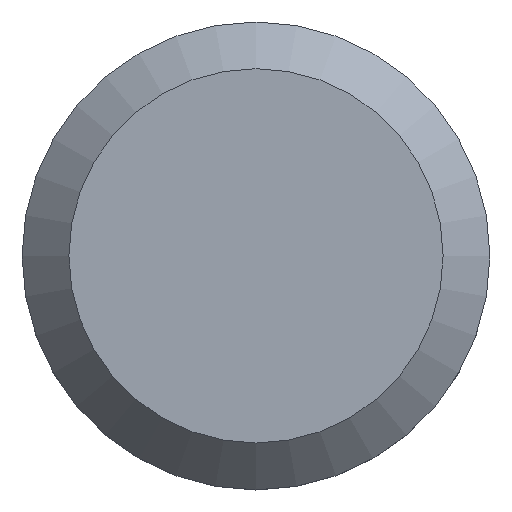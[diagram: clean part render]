
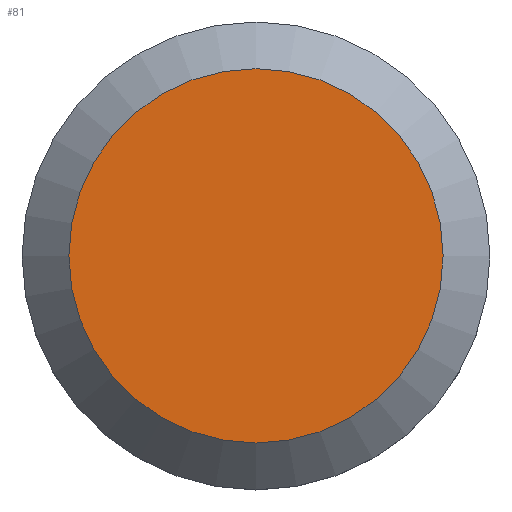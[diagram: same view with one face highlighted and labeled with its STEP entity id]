
A CAD part, top view. The second image highlights one B-rep face of the part: STEP entity #81.
In plain terms, the highlighted planar face has unit normal (0, 0, 1).
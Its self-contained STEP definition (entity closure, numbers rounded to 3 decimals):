
#81=ADVANCED_FACE('',(#170),#171,.F.);
#170=FACE_OUTER_BOUND('',#259,.T.);
#171=PLANE('',#260);
#259=EDGE_LOOP('',(#431));
#260=AXIS2_PLACEMENT_3D('',#432,#433,#434);
#431=ORIENTED_EDGE('',*,*,#540,.T.);
#432=CARTESIAN_POINT('',(0.0,0.0,0.0));
#433=DIRECTION('',(0.0,0.0,-1.0));
#434=DIRECTION('',(-1.0,0.0,0.0));
#540=EDGE_CURVE('',#649,#649,#650,.F.);
#649=VERTEX_POINT('',#806);
#650=CIRCLE('',#807,4.0);
#806=CARTESIAN_POINT('',(-4.0,0.,0.0));
#807=AXIS2_PLACEMENT_3D('',#904,#905,#906);
#904=CARTESIAN_POINT('',(0.0,0.0,0.0));
#905=DIRECTION('',(0.0,0.0,-1.0));
#906=DIRECTION('',(-1.0,0.0,0.0));
